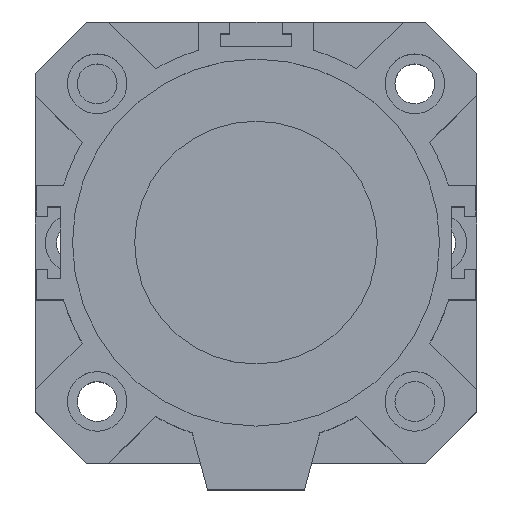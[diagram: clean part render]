
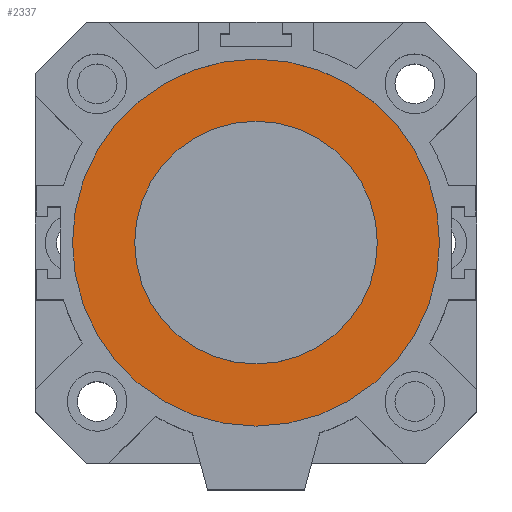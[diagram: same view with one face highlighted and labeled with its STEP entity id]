
A CAD part, top view. The second image highlights one B-rep face of the part: STEP entity #2337.
In plain terms, the highlighted planar face has unit normal (0, 0, 1).
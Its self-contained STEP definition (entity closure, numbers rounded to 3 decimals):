
#450=PLANE('',#2488);
#548=FACE_BOUND('',#766,.T.);
#549=FACE_BOUND('',#767,.T.);
#766=EDGE_LOOP('',(#1592));
#767=EDGE_LOOP('',(#1593));
#976=CIRCLE('',#2483,27.5);
#978=CIRCLE('',#2486,41.6);
#1064=VERTEX_POINT('',#3390);
#1066=VERTEX_POINT('',#3395);
#1286=EDGE_CURVE('',#1064,#1064,#976,.T.);
#1288=EDGE_CURVE('',#1066,#1066,#978,.T.);
#1592=ORIENTED_EDGE('',*,*,#1286,.F.);
#1593=ORIENTED_EDGE('',*,*,#1288,.F.);
#2337=ADVANCED_FACE('',(#548,#549),#450,.T.);
#2483=AXIS2_PLACEMENT_3D('',#3391,#2722,#2723);
#2486=AXIS2_PLACEMENT_3D('',#3396,#2728,#2729);
#2488=AXIS2_PLACEMENT_3D('',#3399,#2732,#2733);
#2722=DIRECTION('center_axis',(0.,0.,1.));
#2723=DIRECTION('ref_axis',(-1.,0.,0.));
#2728=DIRECTION('center_axis',(0.,0.,-1.));
#2729=DIRECTION('ref_axis',(-1.,0.,0.));
#2732=DIRECTION('center_axis',(0.,0.,1.));
#2733=DIRECTION('ref_axis',(1.,0.,0.));
#3390=CARTESIAN_POINT('',(27.5,0.,19.5));
#3391=CARTESIAN_POINT('Origin',(0.,0.,19.5));
#3395=CARTESIAN_POINT('',(41.6,0.,19.5));
#3396=CARTESIAN_POINT('Origin',(0.,0.,19.5));
#3399=CARTESIAN_POINT('Origin',(0.,0.,
19.5));
